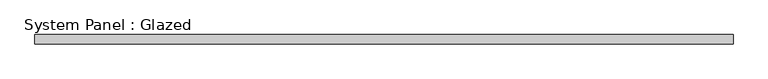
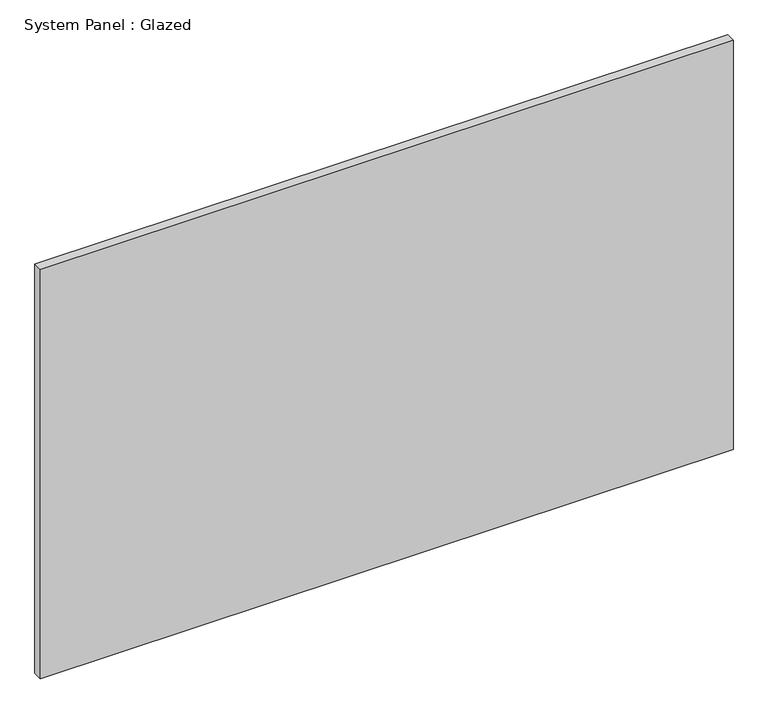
"""IFC4 building model written with IfcOpenShell, lengths in millimetres: plate geometry, System Panel : Glazed."""

from ifc_helpers import new_model, si_unit, origin, origin_with_axes, place, context, project, spatial, polyline, outline, extrude, source, transform, mapped, element, save


def system_panel_glazed_d62b9dad(model_context):
    return source(origin(), model_context, "Body", "SweptSolid", [
        extrude(outline(polyline([(915.0, -49.5), (-915.0, -49.5), (-915.0, -24.5), (915.0, -24.5), (915.0, -49.5)])), origin_with_axes(), (0.0, 0.0, 1.0), 1144.0),
    ])


if __name__ == "__main__":
    model = new_model("IFC4")
    model_context = context("Model", 3, world=origin())
    ifc_project = project(units=[si_unit("LENGTHUNIT", "METRE", prefix="MILLI")], contexts=[model_context])
    site = spatial("IfcSite", under=ifc_project)
    building = spatial("IfcBuilding", under=site)
    placement = place(None, origin())
    system_panel_glazed_shape = system_panel_glazed_d62b9dad(model_context)
    element("IfcPlate", 1, ObjectType="System Panel : Glazed", at=placement, inside=building, context=model_context, shape_type="MappedRepresentation", body=[
        mapped(system_panel_glazed_shape, transform((0.0, 0.0, 0.0), x_axis=(1.0, 0.0, 0.0), y_axis=(0.0, 1.0, 0.0), z_axis=(0.0, 0.0, 1.0))),
    ])
    save(model, "model.ifc")
